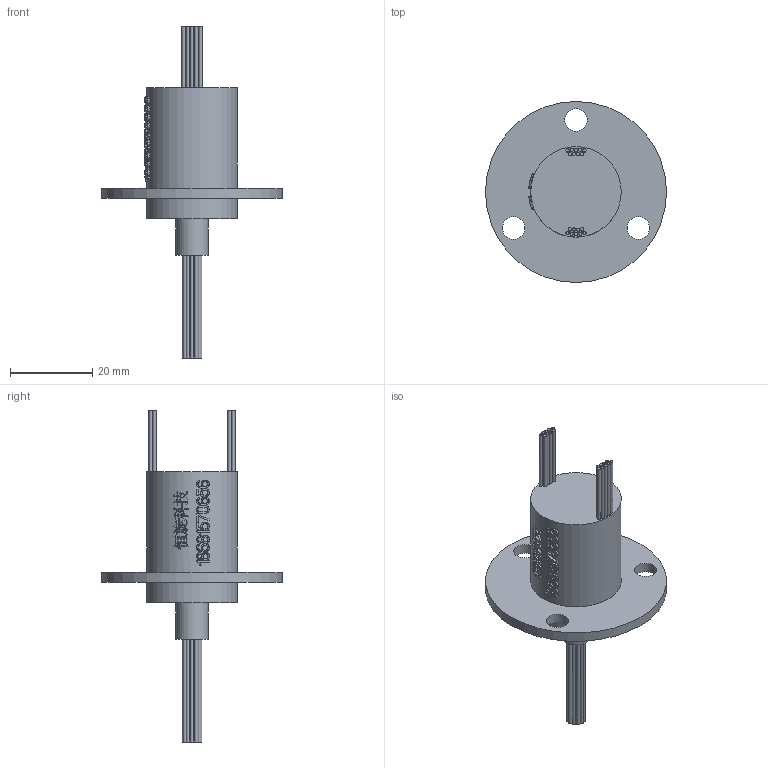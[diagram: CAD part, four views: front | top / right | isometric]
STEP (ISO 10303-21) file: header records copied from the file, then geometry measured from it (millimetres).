
FILE_DESCRIPTION(/* description */ (''),/* implementation_level */ '2;1');
FILE_NAME(/* name */ 'HM022-18.stp',/* time_stamp */ '2025-09-23T10:14:46+08:00',/* author */ (''),/* organization */ (''),/* preprocessor_version */ 'ST-DEVELOPER v16.7',/* originating_system */ 'SIEMENS PLM Software NX 12.0',/* authorisation */ '');
FILE_SCHEMA (('AUTOMOTIVE_DESIGN { 1 0 10303 214 3 1 1 1 }'));
Length unit declared in the file: millimetre
Products named in the file (1): Admi3294BFCC0mhd
Bounding box: 44 x 44 x 80.7 mm (x, y, z)
Volume: 15600.2 mm3; surface area: 7580.7 mm2
Topology: 1 solids, 1 shells, 613 faces, 1607 edges, 1072 vertices
Faces by surface type: extrusion 311, plane 222, cylinder 54, bspline 26
Full cylindrical faces by diameter (mm): 0.8 x36, 5.5 x3, 7.8 x1, 22 x2, 44 x1
Entity records: 24777 total; most frequent: CARTESIAN_POINT 12107, ORIENTED_EDGE 3124, EDGE_CURVE 1562, B_SPLINE_CURVE_WITH_KNOTS 1557, DIRECTION 1399, VERTEX_POINT 1070, EDGE_LOOP 738, ADVANCED_FACE 613
